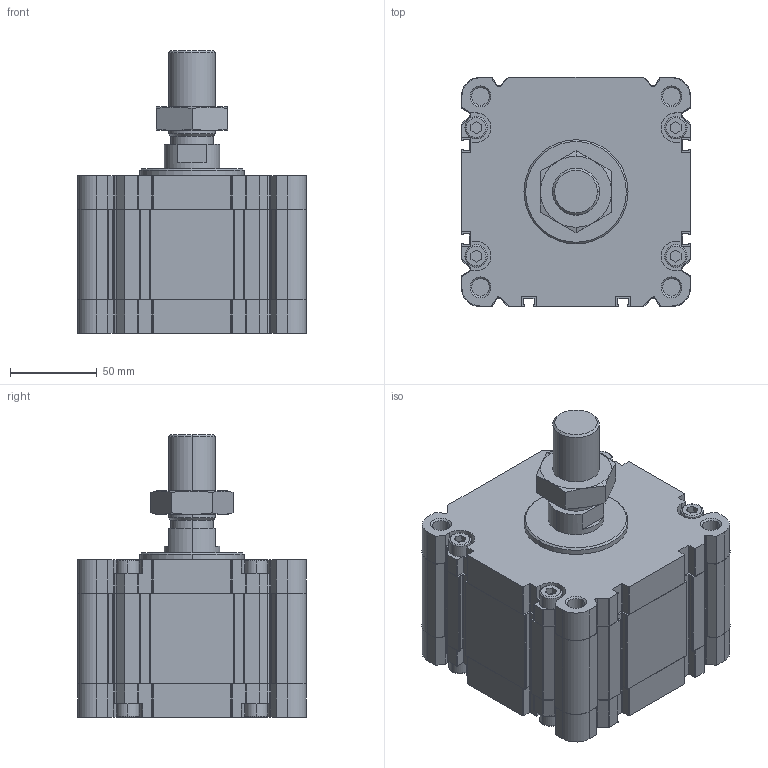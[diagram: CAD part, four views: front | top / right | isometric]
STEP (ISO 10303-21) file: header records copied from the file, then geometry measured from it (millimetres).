
FILE_DESCRIPTION (( 'STEP AP203' ), '1' );
FILE_NAME ('CDVU125-10.STEP', '2020-03-19T11:42:51', ( '' ), ( '' ), 'SwSTEP 2.0', 'SolidWorks 2019', '' );
FILE_SCHEMA (( 'CONFIG_CONTROL_DESIGN' ));
Length unit declared in the file: millimetre
Products named in the file (1): CDVU125-10
Bounding box: 132 x 132 x 163 mm (x, y, z)
Volume: 1457153.8 mm3; surface area: 179929.8 mm2
Topology: 3 solids, 3 shells, 666 faces, 1810 edges, 1180 vertices
Faces by surface type: plane 324, cylinder 270, cone 56, torus 16
Entity records: 21537 total; most frequent: CARTESIAN_POINT 4097, DIRECTION 3754, ORIENTED_EDGE 3612, EDGE_CURVE 1806, AXIS2_PLACEMENT_3D 1293, VERTEX_POINT 1180, VECTOR 1168, LINE 1168
